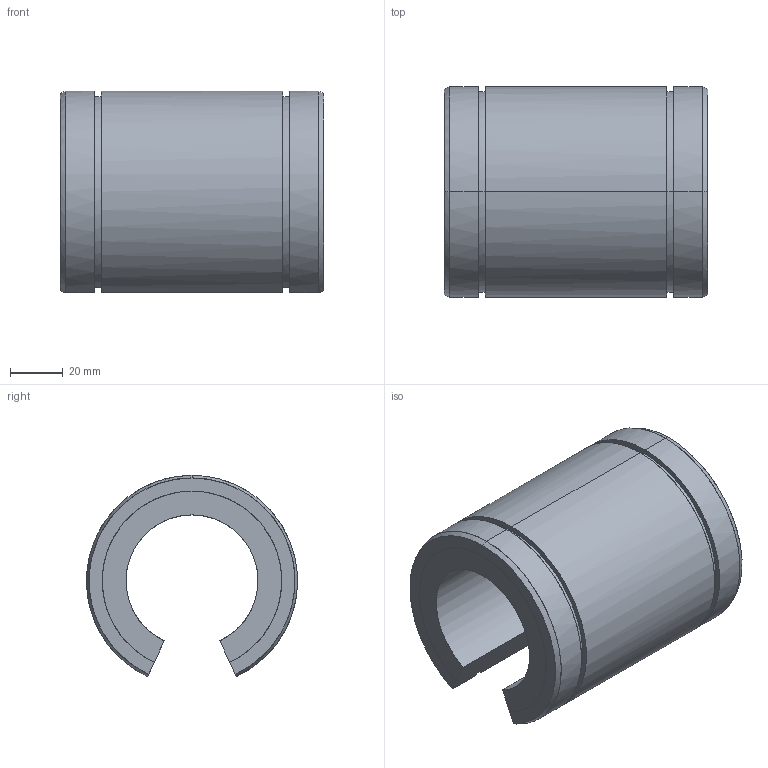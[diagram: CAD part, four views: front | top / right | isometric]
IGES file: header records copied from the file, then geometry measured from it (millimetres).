
Global section: file name: No Iges File Name specified; native system: AutoDesk Inventor R10; preprocessor: AutoDesk Inventor Iges Exporter R10; author: No Author specified; organization: No Organization specified; date: 20101208.113338; units: millimetre
Bounding box: 100 x 79.91 x 76.28 mm (x, y, z)
Surface area: 44759.9 mm2 (no closed solid volume)
Topology: 0 solids, 0 shells, 30 faces, 256 edges, 256 vertices
Faces by surface type: bspline 30
